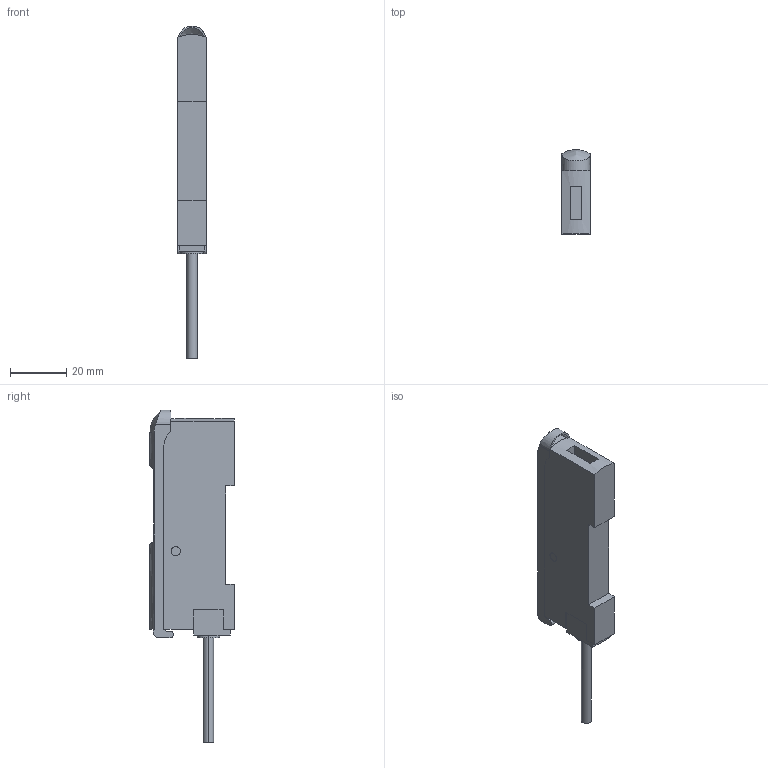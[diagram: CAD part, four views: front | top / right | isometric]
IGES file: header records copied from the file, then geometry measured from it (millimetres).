
Start section: SolidWorks IGES FILE using analytic representation for surfaces
Global section: file name: C:\Documents and Settings\yk0651\デスクトップ\3D_catalog_050929\0_IGES\LS-401-C2.IGS; native system: SolidWorks 2004 by SolidWorks Corporation; preprocessor: Version 5.3; author: yk0651; date: 051001.151502; units: millimetre
Bounding box: 10 x 29.99 x 118 mm (x, y, z)
Volume: 19348 mm3; surface area: 9746.4 mm2
Topology: 2 solids, 2 shells, 166 faces, 419 edges, 278 vertices
Faces by surface type: plane 139, revolution 22, bspline 5
